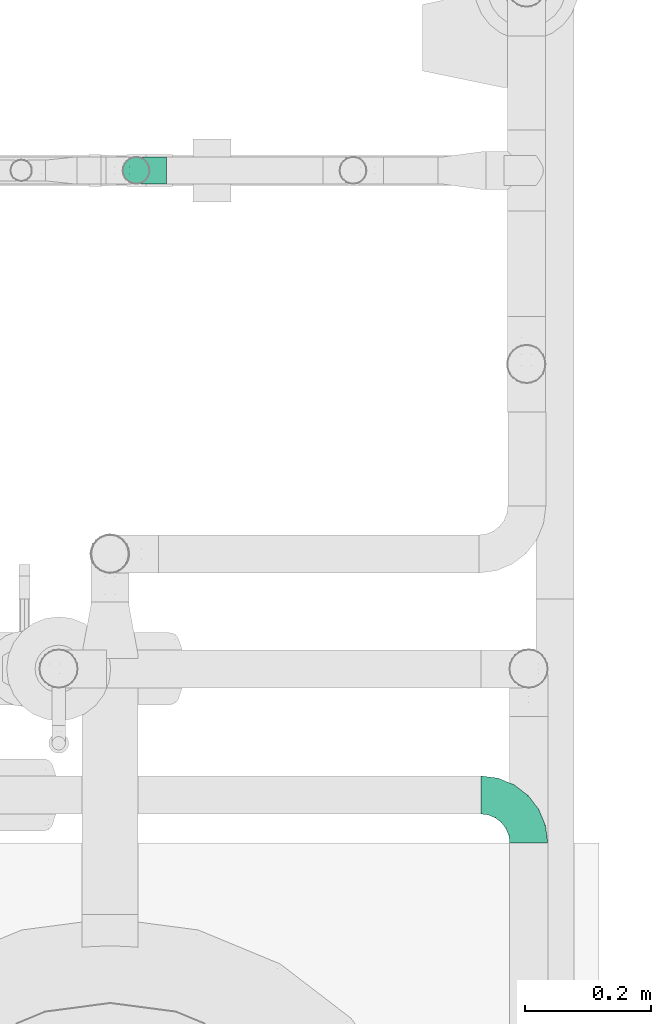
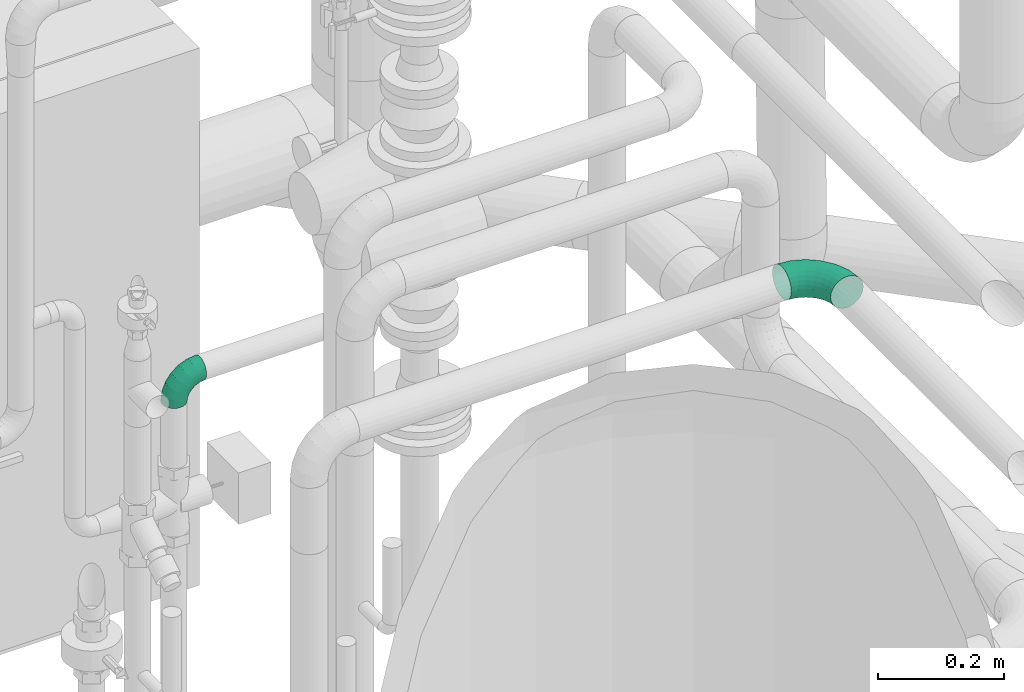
# One storey, part 114 of 374: 2 flow segments.
"""IFC2X3 building model written with IfcOpenShell, lengths in metres."""

from ifc_helpers import new_model, si_unit, direction, origin, place, context, subcontext, project, spatial, open_shell, surface_model, source, transform, mapped, element, save


model = new_model("IFC2X3")

# Units and contexts
model_context = context("Model", 3, precision=1e-05, world=origin(), true_north=direction((-0.4480736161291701, 0.8939966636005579)))
body_context = subcontext(model_context, "Body", "Model", "MODEL_VIEW")
ifc_project = project(units=[si_unit("LENGTHUNIT", "METRE"), si_unit("AREAUNIT", "SQUARE_METRE"), si_unit("VOLUMEUNIT", "CUBIC_METRE"), si_unit("PLANEANGLEUNIT", "RADIAN"), si_unit("THERMODYNAMICTEMPERATUREUNIT", "KELVIN"), si_unit("MASSUNIT", "GRAM", prefix="KILO"), si_unit("TIMEUNIT", "SECOND")], contexts=[model_context])

# Site, building, storey
site_placement = place(None, origin())
site = spatial("IfcSite", under=ifc_project, at=site_placement, Name="Site 1", CompositionType="ELEMENT")
building_placement = place(site_placement, origin())
building = spatial("IfcBuilding", under=site, at=building_placement, Name="Undefined", CompositionType="ELEMENT")
storey_placement = place(building_placement, origin())
storey = spatial("IfcBuildingStorey", under=building, at=storey_placement, Name="Rez de chauss\x8ee", CompositionType="ELEMENT", Elevation=0.0)

# Flow segments
shared_shape_1 = source(origin(), body_context, "Body", "SurfaceModel", [
    surface_model("IfcFaceBasedSurfaceModel", [(0.027710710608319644, 4.4408921e-16, 0.0), (0.02757661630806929, 0.00786958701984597, 7.105427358e-15), (0.00013409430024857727, 0.00786958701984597, 0.0), (0.0, 0.0, 0.0), (-0.02637334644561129, 0.008788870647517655, -0.0070429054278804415), (-0.026766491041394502, 0.0009282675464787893, -0.007111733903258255), (-0.050139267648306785, 0.010564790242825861, -0.02064875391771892), (-0.050764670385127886, 0.0027215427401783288, -0.02085054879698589), (-0.06954406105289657, 0.013076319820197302, -0.03989032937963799), (-0.07035910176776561, 0.00525761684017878, -0.04028016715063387), (-0.0832653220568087, 0.01615230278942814, -0.06345635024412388), (-0.08421445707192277, 0.00836366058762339, -0.06407649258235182), (-0.09036796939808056, 0.019583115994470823, -0.08974083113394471), (-0.0913865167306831, 0.011828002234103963, -0.09061784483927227), (0.027183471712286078, 0.015466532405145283, -0.0020199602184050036), (0.0005272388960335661, 0.015466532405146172, -0.0020199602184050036), (-0.025220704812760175, 0.016359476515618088, -0.008861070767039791), (-0.048305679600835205, 0.018084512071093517, -0.02207708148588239), (-0.06715448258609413, 0.020524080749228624, -0.04076734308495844), (-0.0804825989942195, 0.023511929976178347, -0.06365814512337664), (-0.08738173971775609, 0.026844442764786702, -0.08918951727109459), (0.026558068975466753, 0.022273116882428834, -0.005922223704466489), (0.001152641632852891, 0.02227311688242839, -0.005922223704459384), (-0.02338711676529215, 0.023124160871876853, -0.012442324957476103), (-0.04538886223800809, 0.02476825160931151, -0.02503819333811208), (-0.06335321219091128, 0.027093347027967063, -0.042851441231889), (-0.07605592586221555, 0.029940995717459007, -0.06466812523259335), (-0.08263133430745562, 0.033117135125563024, -0.08900147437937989), (0.025743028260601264, 0.0278254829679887, -0.011440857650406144), (0.0019676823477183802, 0.027825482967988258, -0.011440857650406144), (-0.020997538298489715, 0.028621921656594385, -0.017542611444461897), (-0.04158759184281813, 0.03016052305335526, -0.029330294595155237), (-0.058399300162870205, 0.0323364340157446, -0.04600059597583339), (-0.07028697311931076, 0.03500136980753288, -0.06641746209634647), (-0.07644048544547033, 0.0379737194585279, -0.08918951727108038), (0.02479389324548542, 0.03174524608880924, -0.01819977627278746), (0.0029168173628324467, 0.03174524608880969, -0.01819977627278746), (-0.018214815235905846, 0.0324780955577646, -0.023814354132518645), (-0.03716091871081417, 0.033893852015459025, -0.034660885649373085), (-0.052630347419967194, 0.03589603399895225, -0.05000019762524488), (-0.06356888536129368, 0.03834819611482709, -0.06878694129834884), (-0.06923108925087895, 0.041083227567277, -0.0897408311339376), (0.023775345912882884, 0.03376528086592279, -0.02573837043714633), (0.003935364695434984, 0.03376528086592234, -0.02573837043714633), (-0.01522858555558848, 0.03442989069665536, -0.03083014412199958), (-0.0324105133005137, 0.03571381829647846, -0.040666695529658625), (-0.046439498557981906, 0.0375295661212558, -0.05457767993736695), (-0.05635948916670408, 0.039753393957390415, -0.07161508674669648), (-0.061494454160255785, 0.04223375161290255, -0.09061784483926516), (0.022756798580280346, 0.03374792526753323, -0.033542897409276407), (0.0049539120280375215, 0.033747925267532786, -0.033542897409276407), (-0.01224235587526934, 0.03434429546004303, -0.03811186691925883), (-0.027660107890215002, 0.035496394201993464, -0.04693843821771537), (-0.040248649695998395, 0.0371257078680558, -0.05942109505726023), (-0.04915009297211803, 0.039121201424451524, -0.07470916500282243), (-0.05375781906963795, 0.041346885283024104, -0.09176079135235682), (0.02180766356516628, 0.03169436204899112, -0.04108149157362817), (0.005903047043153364, 0.031694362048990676, -0.04108149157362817), (-0.00945963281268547, 0.03222714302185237, -0.045163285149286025), (-0.02323343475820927, 0.03325639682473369, -0.05304870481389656), (-0.034479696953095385, 0.034711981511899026, -0.06420037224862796), (-0.04243200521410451, 0.036494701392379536, -0.07785831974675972), (-0.04654842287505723, 0.03848306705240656, -0.09309178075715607), (0.020992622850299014, 0.02774453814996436, -0.0478404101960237), (0.006718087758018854, 0.027744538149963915, -0.0478404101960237), (-0.007070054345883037, 0.02822271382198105, -0.05150385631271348), (-0.019432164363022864, 0.0291464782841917, -0.0585810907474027), (-0.029525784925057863, 0.030452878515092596, -0.06858981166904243), (-0.03666305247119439, 0.032052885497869, -0.08084794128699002), (-0.04035757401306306, 0.03383746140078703, -0.09452010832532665), (0.020367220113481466, 0.022167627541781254, -0.05335904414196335), (0.0073434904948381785, 0.022167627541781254, -0.05335904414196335), (-0.00523646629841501, 0.02260390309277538, -0.05670148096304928), (-0.016515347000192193, 0.023446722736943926, -0.06315857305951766), (-0.025724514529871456, 0.02463864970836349, -0.07229028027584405), (-0.03223637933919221, 0.02609845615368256, -0.0834742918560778), (-0.03560716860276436, 0.027726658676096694, -0.09594843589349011), (0.019974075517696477, 0.01534368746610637, -0.05726130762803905), (0.007736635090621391, 0.01534368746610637, -0.05726130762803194), (-0.004083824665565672, 0.01575362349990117, -0.06040194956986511), (-0.014681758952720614, 0.01654555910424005, -0.06646920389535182), (-0.02333493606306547, 0.01766552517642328, -0.07504959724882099), (-0.029453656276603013, 0.01903719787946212, -0.08555839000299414), (-0.032620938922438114, 0.02056709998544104, -0.09727942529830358), (0.019839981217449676, 0.00773775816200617, -0.05928126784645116), (0.007870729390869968, 0.007737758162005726, -0.05928126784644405), (-0.003690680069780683, 0.008138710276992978, -0.062353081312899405), (-0.014056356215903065, 0.008913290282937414, -0.06828736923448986), (-0.022519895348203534, 0.01000871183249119, -0.07667971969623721), (-0.0285045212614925, 0.011350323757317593, -0.08695820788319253), (-0.03160239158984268, 0.012846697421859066, -0.09842237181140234), (0.019974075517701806, -0.0001318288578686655, -0.05928126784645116), (0.007736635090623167, -0.0001318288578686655, -0.059281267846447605), (-0.004083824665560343, 0.0002781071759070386, -0.062421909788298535), (-0.014681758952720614, 0.001070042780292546, -0.06848916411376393), (-0.02333493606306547, 0.0021900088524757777, -0.0770695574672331), (-0.029453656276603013, 0.0035616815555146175, -0.08757835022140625), (-0.032620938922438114, 0.005091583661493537, -0.09929938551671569), (0.020367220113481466, -0.007728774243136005, -0.057261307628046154), (0.0073434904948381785, -0.007728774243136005, -0.057261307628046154), (-0.00523646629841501, -0.00729249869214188, -0.06060374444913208), (-0.016515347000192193, -0.0064496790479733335, -0.06706083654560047), (-0.025724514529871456, -0.005257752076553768, -0.07619254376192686), (-0.03223637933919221, -0.0037979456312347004, -0.0873765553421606), (-0.03560716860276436, -0.0021697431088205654, -0.09985069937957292), (0.020992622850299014, -0.01453535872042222, -0.053359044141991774), (0.006718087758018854, -0.014535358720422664, -0.053359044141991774), (-0.007070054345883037, -0.01405718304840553, -0.05702249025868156), (-0.019432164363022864, -0.013133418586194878, -0.06409972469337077), (-0.029525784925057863, -0.011827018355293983, -0.07410844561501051), (-0.03666305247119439, -0.01022701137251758, -0.0863665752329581), (-0.04035757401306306, -0.008442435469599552, -0.10003874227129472), (0.02180766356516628, -0.020087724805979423, -0.04784041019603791), (0.005903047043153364, -0.020087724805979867, -0.04784041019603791), (-0.00945963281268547, -0.019554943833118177, -0.05192220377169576), (-0.02323343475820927, -0.018525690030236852, -0.0598076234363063), (-0.034479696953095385, -0.017070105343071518, -0.0709592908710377), (-0.04243200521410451, -0.015287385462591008, -0.08461723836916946), (-0.04654842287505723, -0.013299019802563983, -0.09985069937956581), (0.022756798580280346, -0.024007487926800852, -0.0410814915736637), (0.0049539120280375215, -0.024007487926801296, -0.0410814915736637), (-0.01224235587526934, -0.023411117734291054, -0.04565046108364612), (-0.027660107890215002, -0.022259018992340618, -0.054477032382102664), (-0.040248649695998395, -0.02062970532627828, -0.06695968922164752), (-0.04915009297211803, -0.018634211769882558, -0.08224775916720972), (-0.05375781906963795, -0.016408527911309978, -0.09929938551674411), (0.023775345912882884, -0.026027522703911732, -0.033542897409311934), (0.003935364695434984, -0.026027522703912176, -0.033542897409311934), (-0.01522858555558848, -0.025362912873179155, -0.038634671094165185), (-0.0324105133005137, -0.024078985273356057, -0.04847122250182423), (-0.046439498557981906, -0.02226323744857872, -0.062382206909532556), (-0.05635948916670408, -0.020039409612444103, -0.07941961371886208), (-0.061494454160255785, -0.01755905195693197, -0.09842237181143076), (0.02479389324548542, -0.02601016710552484, -0.02573837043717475), (0.0029168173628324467, -0.026010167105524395, -0.02573837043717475), (-0.018214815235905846, -0.025277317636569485, -0.031352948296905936), (-0.03716091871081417, -0.023861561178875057, -0.04219947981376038), (-0.052630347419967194, -0.021859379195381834, -0.05753879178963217), (-0.06356888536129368, -0.01940721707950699, -0.07632553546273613), (-0.06923108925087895, -0.01667218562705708, -0.0972794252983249), (0.025743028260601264, -0.023956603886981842, -0.018199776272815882), (0.0019676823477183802, -0.023956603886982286, -0.018199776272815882), (-0.020997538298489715, -0.02316016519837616, -0.024301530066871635), (-0.04158759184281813, -0.021621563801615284, -0.036089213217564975), (-0.058399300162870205, -0.019445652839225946, -0.05275951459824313), (-0.07028697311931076, -0.016780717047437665, -0.0731763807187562), (-0.07644048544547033, -0.013808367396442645, -0.09594843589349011), (0.026558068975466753, -0.020006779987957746, -0.011440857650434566), (0.001152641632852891, -0.02000677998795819, -0.01144085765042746), (-0.02338711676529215, -0.019155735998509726, -0.01796095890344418), (-0.04538886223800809, -0.01751164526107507, -0.030556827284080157), (-0.06335321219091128, -0.015186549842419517, -0.048370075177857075), (-0.07605592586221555, -0.012338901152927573, -0.07018675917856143), (-0.08263133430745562, -0.009162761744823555, -0.09452010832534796), (0.027183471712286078, -0.014429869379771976, -0.005922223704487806), (0.0005272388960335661, -0.014429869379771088, -0.005922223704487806), (-0.025220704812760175, -0.013536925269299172, -0.012763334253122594), (-0.048305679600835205, -0.011811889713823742, -0.02597934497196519), (-0.06715448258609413, -0.009372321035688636, -0.04466960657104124), (-0.0804825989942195, -0.006384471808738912, -0.06756040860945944), (-0.08738173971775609, -0.003051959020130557, -0.09309178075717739), (0.02757661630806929, -0.007605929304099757, -0.0020199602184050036), (0.00013409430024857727, -0.007605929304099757, -0.002019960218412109), (-0.02637334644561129, -0.006686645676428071, -0.00906286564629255), (-0.050139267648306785, -0.004910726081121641, -0.02266871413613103), (-0.06954406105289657, -0.0023991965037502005, -0.0419102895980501), (-0.0832653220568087, 0.0006767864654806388, -0.06547631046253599), (-0.09036796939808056, 0.004107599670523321, -0.09176079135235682)], [open_shell([[[0, 1, 2, 3]], [[3, 2, 4, 5]], [[5, 4, 6, 7]], [[7, 6, 8, 9]], [[9, 8, 10, 11]], [[11, 10, 12, 13]], [[1, 14, 15, 2]], [[2, 15, 16, 4]], [[4, 16, 17, 6]], [[6, 17, 18, 8]], [[8, 18, 19, 10]], [[10, 19, 20, 12]], [[14, 21, 22, 15]], [[15, 22, 23, 16]], [[16, 23, 24, 17]], [[17, 24, 25, 18]], [[18, 25, 26, 19]], [[19, 26, 27, 20]], [[21, 28, 29, 22]], [[22, 29, 30, 23]], [[23, 30, 31, 24]], [[24, 31, 32, 25]], [[25, 32, 33, 26]], [[26, 33, 34, 27]], [[28, 35, 36, 29]], [[29, 36, 37, 30]], [[30, 37, 38, 31]], [[31, 38, 39, 32]], [[32, 39, 40, 33]], [[33, 40, 41, 34]], [[35, 42, 43, 36]], [[36, 43, 44, 37]], [[37, 44, 45, 38]], [[38, 45, 46, 39]], [[39, 46, 47, 40]], [[40, 47, 48, 41]], [[42, 49, 50, 43]], [[43, 50, 51, 44]], [[44, 51, 52, 45]], [[45, 52, 53, 46]], [[46, 53, 54, 47]], [[47, 54, 55, 48]], [[49, 56, 57, 50]], [[50, 57, 58, 51]], [[51, 58, 59, 52]], [[52, 59, 60, 53]], [[53, 60, 61, 54]], [[54, 61, 62, 55]], [[56, 63, 64, 57]], [[57, 64, 65, 58]], [[58, 65, 66, 59]], [[59, 66, 67, 60]], [[60, 67, 68, 61]], [[61, 68, 69, 62]], [[63, 70, 71, 64]], [[64, 71, 72, 65]], [[65, 72, 73, 66]], [[66, 73, 74, 67]], [[67, 74, 75, 68]], [[68, 75, 76, 69]], [[70, 77, 78, 71]], [[71, 78, 79, 72]], [[72, 79, 80, 73]], [[73, 80, 81, 74]], [[74, 81, 82, 75]], [[75, 82, 83, 76]], [[77, 84, 85, 78]], [[78, 85, 86, 79]], [[79, 86, 87, 80]], [[80, 87, 88, 81]], [[81, 88, 89, 82]], [[82, 89, 90, 83]], [[84, 91, 92, 85]], [[85, 92, 93, 86]], [[86, 93, 94, 87]], [[87, 94, 95, 88]], [[88, 95, 96, 89]], [[89, 96, 97, 90]], [[91, 98, 99, 92]], [[92, 99, 100, 93]], [[93, 100, 101, 94]], [[94, 101, 102, 95]], [[95, 102, 103, 96]], [[96, 103, 104, 97]], [[98, 105, 106, 99]], [[99, 106, 107, 100]], [[100, 107, 108, 101]], [[101, 108, 109, 102]], [[102, 109, 110, 103]], [[103, 110, 111, 104]], [[105, 112, 113, 106]], [[106, 113, 114, 107]], [[107, 114, 115, 108]], [[108, 115, 116, 109]], [[109, 116, 117, 110]], [[110, 117, 118, 111]], [[112, 119, 120, 113]], [[113, 120, 121, 114]], [[114, 121, 122, 115]], [[115, 122, 123, 116]], [[116, 123, 124, 117]], [[117, 124, 125, 118]], [[119, 126, 127, 120]], [[120, 127, 128, 121]], [[121, 128, 129, 122]], [[122, 129, 130, 123]], [[123, 130, 131, 124]], [[124, 131, 132, 125]], [[126, 133, 134, 127]], [[127, 134, 135, 128]], [[128, 135, 136, 129]], [[129, 136, 137, 130]], [[130, 137, 138, 131]], [[131, 138, 139, 132]], [[133, 140, 141, 134]], [[134, 141, 142, 135]], [[135, 142, 143, 136]], [[136, 143, 144, 137]], [[137, 144, 145, 138]], [[138, 145, 146, 139]], [[140, 147, 148, 141]], [[141, 148, 149, 142]], [[142, 149, 150, 143]], [[143, 150, 151, 144]], [[144, 151, 152, 145]], [[145, 152, 153, 146]], [[147, 154, 155, 148]], [[148, 155, 156, 149]], [[149, 156, 157, 150]], [[150, 157, 158, 151]], [[151, 158, 159, 152]], [[152, 159, 160, 153]], [[154, 161, 162, 155]], [[155, 162, 163, 156]], [[156, 163, 164, 157]], [[157, 164, 165, 158]], [[158, 165, 166, 159]], [[159, 166, 167, 160]], [[161, 0, 3, 162]], [[162, 3, 5, 163]], [[163, 5, 7, 164]], [[164, 7, 9, 165]], [[165, 9, 11, 166]], [[166, 11, 13, 167]]])]),
])
flow_segment_1_placement = place(storey_placement, origin())
element("IfcFlowSegment", 1, at=flow_segment_1_placement, inside=storey, Name="Tube coudé", ObjectType="Tube coudé", context=body_context, shape_type="MappedRepresentation", body=[
    mapped(shared_shape_1, transform((54.95430420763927, 10.744570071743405, 1.9652586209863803), x_axis=(-0.9914448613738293, 0.13052619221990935, 0.0), y_axis=(-0.016893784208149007, -0.12832103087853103, 0.9915887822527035), z_axis=(0.12942830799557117, 0.9831056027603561, 0.12942830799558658))),
])
shared_shape_2 = source(origin(), body_context, "Body", "SurfaceModel", [
    surface_model("IfcFaceBasedSurfaceModel", [(0.01806482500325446, 7.105427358e-15, 0.0), (0.017970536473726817, 0.005533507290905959, 0.0), (9.428852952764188e-05, 0.005533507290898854, 0.0), (0.0, 0.0, 0.0), (-0.017172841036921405, 0.00613233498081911, -0.004587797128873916), (-0.01744928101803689, 0.0006051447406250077, -0.004636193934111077), (-0.03265412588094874, 0.007289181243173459, -0.013450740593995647), (-0.0330938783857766, 0.0017741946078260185, -0.013592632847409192), (-0.045294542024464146, 0.008925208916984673, -0.02598483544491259), (-0.045867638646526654, 0.0034274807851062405, -0.02625895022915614), (-0.054232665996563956, 0.010928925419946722, -0.041335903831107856), (-0.05490005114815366, 0.005452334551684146, -0.04177195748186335), (-0.05885937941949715, 0.013163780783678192, -0.05845779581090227), (-0.059575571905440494, 0.007710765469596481, -0.05907446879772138), (0.01769409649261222, 0.010875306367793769, -0.0014203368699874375), (0.00037072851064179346, 0.010875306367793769, -0.0014203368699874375), (-0.016362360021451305, 0.011455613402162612, -0.005866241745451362), (-0.03136483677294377, 0.012576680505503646, -0.014455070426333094), (-0.04361430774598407, 0.014162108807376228, -0.026601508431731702), (-0.05227599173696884, 0.016103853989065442, -0.0414777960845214), (-0.05675960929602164, 0.018269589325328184, -0.05807013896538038), (0.017254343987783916, 0.015661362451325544, -0.0041642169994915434), (0.0008104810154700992, 0.015661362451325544, -0.004164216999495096), (-0.01507307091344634, 0.016212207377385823, -0.008384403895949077), (-0.029313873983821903, 0.01727635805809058, -0.016537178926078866), (-0.04094144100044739, 0.01878129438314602, -0.02806694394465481), (-0.049163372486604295, 0.02062445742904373, -0.042187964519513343), (-0.05341935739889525, 0.02268023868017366, -0.05793791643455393), (0.016681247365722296, 0.01956551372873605, -0.008044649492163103), (0.001383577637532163, 0.01956551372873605, -0.008044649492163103), (-0.01339283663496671, 0.020077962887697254, -0.011970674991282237), (-0.026641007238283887, 0.021067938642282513, -0.01955517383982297), (-0.03745809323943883, 0.02246797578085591, -0.03028127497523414), (-0.04510692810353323, 0.0241826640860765, -0.04341801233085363), (-0.04906625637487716, 0.026095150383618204, -0.05807013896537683), (0.016013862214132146, 0.022321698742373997, -0.012797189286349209), (0.0020509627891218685, 0.022321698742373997, -0.012797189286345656), (-0.011436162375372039, 0.02278943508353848, -0.016380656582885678), (-0.023528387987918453, 0.02369303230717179, -0.023303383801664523), (-0.03340164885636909, 0.024970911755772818, -0.03309359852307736), (-0.040383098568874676, 0.026535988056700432, -0.04508411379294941), (-0.04399696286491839, 0.028281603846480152, -0.05845779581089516), (0.015297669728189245, 0.023742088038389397, -0.018097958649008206), (0.00276715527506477, 0.023742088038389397, -0.018097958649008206), (-0.009336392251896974, 0.024161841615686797, -0.021313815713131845), (-0.02018813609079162, 0.02497274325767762, -0.0275263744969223), (-0.029048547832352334, 0.02611953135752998, -0.03631225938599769), (-0.03531380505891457, 0.027524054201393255, -0.04707272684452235), (-0.0385569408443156, 0.02909059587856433, -0.05907446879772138), (0.014581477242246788, 0.023729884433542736, -0.02358571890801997), (0.0034833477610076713, 0.023729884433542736, -0.02358571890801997), (-0.007236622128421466, 0.024101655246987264, -0.026433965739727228), (-0.016847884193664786, 0.02481986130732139, -0.03193635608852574), (-0.02469544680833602, 0.02583555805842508, -0.03971791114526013), (-0.0302445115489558, 0.027079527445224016, -0.04924833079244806), (-0.03311691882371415, 0.02846699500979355, -0.059878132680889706), (0.013914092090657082, 0.02228591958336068, -0.02888648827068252), (0.004150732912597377, 0.022285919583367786, -0.028886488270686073), (-0.005279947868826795, 0.022612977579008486, -0.031392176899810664), (-0.013735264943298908, 0.023244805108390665, -0.03623279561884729), (-0.020639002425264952, 0.02413834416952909, -0.04307846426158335), (-0.025520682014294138, 0.025232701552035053, -0.051462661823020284), (-0.028047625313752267, 0.026453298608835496, -0.060814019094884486), (0.013340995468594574, 0.01950859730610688, -0.03363902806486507), (0.0047238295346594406, 0.01950859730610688, -0.033639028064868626), (-0.0035997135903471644, 0.019797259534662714, -0.035850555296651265), (-0.011062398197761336, 0.0203549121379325, -0.04012289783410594), (-0.017155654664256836, 0.021143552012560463, -0.04616490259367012), (-0.02146423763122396, 0.022109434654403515, -0.05356481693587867), (-0.02369452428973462, 0.023186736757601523, -0.06181834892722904), (0.012901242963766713, 0.015587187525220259, -0.037519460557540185), (0.005163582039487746, 0.015587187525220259, -0.03751946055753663), (-0.0023104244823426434, 0.015846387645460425, -0.03950526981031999), (-0.009011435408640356, 0.016347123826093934, -0.043341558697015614), (-0.01448278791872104, 0.017055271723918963, -0.048766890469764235), (-0.018351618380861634, 0.017922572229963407, -0.05541153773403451), (-0.02035427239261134, 0.018889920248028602, -0.06282267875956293), (0.012624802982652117, 0.010788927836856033, -0.040263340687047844), (0.005440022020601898, 0.010788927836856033, -0.0402633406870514), (-0.0014999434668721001, 0.011029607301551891, -0.04210725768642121), (-0.007722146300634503, 0.01149456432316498, -0.045669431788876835), (-0.012802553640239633, 0.012152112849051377, -0.05070710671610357), (-0.0163949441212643, 0.012957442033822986, -0.056876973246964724), (-0.018254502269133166, 0.013855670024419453, -0.06375856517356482), (0.012530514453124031, 0.005440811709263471, -0.041683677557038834), (0.005534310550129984, 0.0054408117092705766, -0.041683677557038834), (-0.0012235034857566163, 0.005675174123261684, -0.04347919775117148), (-0.007282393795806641, 0.006127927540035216, -0.046947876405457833), (-0.012229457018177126, 0.0067682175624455, -0.05185332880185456), (-0.015727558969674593, 0.007552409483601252, -0.05786125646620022), (-0.01753830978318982, 0.008427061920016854, -0.0645622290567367), (0.012624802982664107, -9.269558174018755e-05, -0.041683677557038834), (0.0054400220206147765, -9.26955817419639e-05, -0.04168367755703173), (-0.0014999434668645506, 0.00014798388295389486, -0.043527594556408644), (-0.007722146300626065, 0.0006129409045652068, -0.04708976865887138), (-0.012802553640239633, 0.001270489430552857, -0.05212744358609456), (-0.0163949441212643, 0.002075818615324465, -0.058297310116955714), (-0.018254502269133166, 0.0029740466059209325, -0.06517890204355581), (0.012901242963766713, -0.005434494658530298, -0.0402633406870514), (0.005163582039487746, -0.005434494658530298, -0.040263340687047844), (-0.0023104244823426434, -0.005175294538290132, -0.0422491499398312), (-0.009011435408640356, -0.004674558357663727, -0.046085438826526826), (-0.01448278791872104, -0.0039664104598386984, -0.051510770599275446), (-0.018351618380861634, -0.0030991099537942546, -0.05815541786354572), (-0.02035427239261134, -0.0021317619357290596, -0.06556655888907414), (0.013340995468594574, -0.010220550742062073, -0.03751946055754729), (0.0047238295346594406, -0.010220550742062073, -0.03751946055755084), (-0.0035997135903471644, -0.009931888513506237, -0.03973098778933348), (-0.011062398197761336, -0.009374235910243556, -0.04400333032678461), (-0.017155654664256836, -0.00858559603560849, -0.05004533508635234), (-0.02146423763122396, -0.007619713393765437, -0.057445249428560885), (-0.02369452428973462, -0.006542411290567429, -0.06569878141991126), (0.013914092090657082, -0.01412470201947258, -0.03363902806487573), (0.004150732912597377, -0.014124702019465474, -0.033639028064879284), (-0.005279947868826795, -0.013797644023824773, -0.036144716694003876), (-0.013735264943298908, -0.013165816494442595, -0.0409853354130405), (-0.020639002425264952, -0.012272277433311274, -0.04783100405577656), (-0.025520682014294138, -0.011177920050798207, -0.05621520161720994), (-0.028047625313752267, -0.009957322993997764, -0.0655665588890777), (0.014581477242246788, -0.01688088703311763, -0.028886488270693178), (0.0034833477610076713, -0.01688088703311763, -0.028886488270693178), (-0.007236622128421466, -0.016509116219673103, -0.031734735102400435), (-0.016847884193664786, -0.015790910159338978, -0.03723712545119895), (-0.02469544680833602, -0.014775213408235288, -0.04501868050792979), (-0.0302445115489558, -0.01353124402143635, -0.054549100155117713), (-0.03311691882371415, -0.012143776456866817, -0.06517890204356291), (0.015297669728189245, -0.01830127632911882, -0.02358571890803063), (0.00276715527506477, -0.01830127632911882, -0.02358571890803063), (-0.009336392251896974, -0.01788152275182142, -0.026801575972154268), (-0.02018813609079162, -0.017070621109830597, -0.033014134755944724), (-0.029048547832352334, -0.01592383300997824, -0.04180001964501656), (-0.03531380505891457, -0.014519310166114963, -0.05256048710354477), (-0.0385569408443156, -0.012952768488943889, -0.06456222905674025), (0.016013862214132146, -0.01828907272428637, -0.018097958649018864), (0.0020509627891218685, -0.01828907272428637, -0.018097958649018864), (-0.011436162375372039, -0.01782133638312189, -0.021681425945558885), (-0.023528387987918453, -0.016917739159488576, -0.02860415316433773), (-0.03340164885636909, -0.01563985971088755, -0.038394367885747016), (-0.040383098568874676, -0.014074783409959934, -0.05038488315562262), (-0.04399696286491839, -0.012329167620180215, -0.06375856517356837), (0.016681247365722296, -0.01684510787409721, -0.012797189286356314), (0.001383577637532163, -0.01684510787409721, -0.012797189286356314), (-0.01339283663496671, -0.016332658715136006, -0.01672321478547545), (-0.026641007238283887, -0.015342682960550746, -0.02430771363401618), (-0.03745809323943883, -0.01394264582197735, -0.03503381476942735), (-0.04510692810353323, -0.01222795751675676, -0.04817055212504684), (-0.04906625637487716, -0.010315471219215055, -0.06282267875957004), (0.017254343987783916, -0.014067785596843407, -0.008044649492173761), (0.0008104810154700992, -0.014067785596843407, -0.008044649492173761), (-0.01507307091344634, -0.013516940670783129, -0.012264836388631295), (-0.029313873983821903, -0.012452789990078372, -0.020417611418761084), (-0.04094144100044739, -0.010947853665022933, -0.03194737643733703), (-0.049163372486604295, -0.009104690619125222, -0.04606839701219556), (-0.05341935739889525, -0.007048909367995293, -0.06181834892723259), (0.01769409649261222, -0.010146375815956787, -0.004164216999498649), (0.00037072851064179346, -0.010146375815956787, -0.004164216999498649), (-0.016362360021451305, -0.009566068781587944, -0.008610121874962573), (-0.03136483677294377, -0.008445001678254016, -0.017198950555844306), (-0.04361430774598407, -0.006859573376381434, -0.029345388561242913), (-0.05227599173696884, -0.00491782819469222, -0.04422167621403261), (-0.05675960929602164, -0.002752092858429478, -0.060814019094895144), (0.017970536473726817, -0.0053481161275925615, -0.0014203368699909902), (9.428852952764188e-05, -0.005348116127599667, -0.001420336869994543), (-0.017172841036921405, -0.004749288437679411, -0.006008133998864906), (-0.03265412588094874, -0.0035924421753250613, -0.014871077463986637), (-0.045294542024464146, -0.001956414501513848, -0.02740517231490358), (-0.05423266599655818, 4.730200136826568e-05, -0.042756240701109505), (-0.05885937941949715, 0.002282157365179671, -0.05987813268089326)], [open_shell([[[0, 1, 2, 3]], [[3, 2, 4, 5]], [[5, 4, 6, 7]], [[7, 6, 8, 9]], [[9, 8, 10, 11]], [[11, 10, 12, 13]], [[1, 14, 15, 2]], [[2, 15, 16, 4]], [[4, 16, 17, 6]], [[6, 17, 18, 8]], [[8, 18, 19, 10]], [[10, 19, 20, 12]], [[14, 21, 22, 15]], [[15, 22, 23, 16]], [[16, 23, 24, 17]], [[17, 24, 25, 18]], [[18, 25, 26, 19]], [[19, 26, 27, 20]], [[21, 28, 29, 22]], [[22, 29, 30, 23]], [[23, 30, 31, 24]], [[24, 31, 32, 25]], [[25, 32, 33, 26]], [[26, 33, 34, 27]], [[28, 35, 36, 29]], [[29, 36, 37, 30]], [[30, 37, 38, 31]], [[31, 38, 39, 32]], [[32, 39, 40, 33]], [[33, 40, 41, 34]], [[35, 42, 43, 36]], [[36, 43, 44, 37]], [[37, 44, 45, 38]], [[38, 45, 46, 39]], [[39, 46, 47, 40]], [[40, 47, 48, 41]], [[42, 49, 50, 43]], [[43, 50, 51, 44]], [[44, 51, 52, 45]], [[45, 52, 53, 46]], [[46, 53, 54, 47]], [[47, 54, 55, 48]], [[49, 56, 57, 50]], [[50, 57, 58, 51]], [[51, 58, 59, 52]], [[52, 59, 60, 53]], [[53, 60, 61, 54]], [[54, 61, 62, 55]], [[56, 63, 64, 57]], [[57, 64, 65, 58]], [[58, 65, 66, 59]], [[59, 66, 67, 60]], [[60, 67, 68, 61]], [[61, 68, 69, 62]], [[63, 70, 71, 64]], [[64, 71, 72, 65]], [[65, 72, 73, 66]], [[66, 73, 74, 67]], [[67, 74, 75, 68]], [[68, 75, 76, 69]], [[70, 77, 78, 71]], [[71, 78, 79, 72]], [[72, 79, 80, 73]], [[73, 80, 81, 74]], [[74, 81, 82, 75]], [[75, 82, 83, 76]], [[77, 84, 85, 78]], [[78, 85, 86, 79]], [[79, 86, 87, 80]], [[80, 87, 88, 81]], [[81, 88, 89, 82]], [[82, 89, 90, 83]], [[84, 91, 92, 85]], [[85, 92, 93, 86]], [[86, 93, 94, 87]], [[87, 94, 95, 88]], [[88, 95, 96, 89]], [[89, 96, 97, 90]], [[91, 98, 99, 92]], [[92, 99, 100, 93]], [[93, 100, 101, 94]], [[94, 101, 102, 95]], [[95, 102, 103, 96]], [[96, 103, 104, 97]], [[98, 105, 106, 99]], [[99, 106, 107, 100]], [[100, 107, 108, 101]], [[101, 108, 109, 102]], [[102, 109, 110, 103]], [[103, 110, 111, 104]], [[105, 112, 113, 106]], [[106, 113, 114, 107]], [[107, 114, 115, 108]], [[108, 115, 116, 109]], [[109, 116, 117, 110]], [[110, 117, 118, 111]], [[112, 119, 120, 113]], [[113, 120, 121, 114]], [[114, 121, 122, 115]], [[115, 122, 123, 116]], [[116, 123, 124, 117]], [[117, 124, 125, 118]], [[119, 126, 127, 120]], [[120, 127, 128, 121]], [[121, 128, 129, 122]], [[122, 129, 130, 123]], [[123, 130, 131, 124]], [[124, 131, 132, 125]], [[126, 133, 134, 127]], [[127, 134, 135, 128]], [[128, 135, 136, 129]], [[129, 136, 137, 130]], [[130, 137, 138, 131]], [[131, 138, 139, 132]], [[133, 140, 141, 134]], [[134, 141, 142, 135]], [[135, 142, 143, 136]], [[136, 143, 144, 137]], [[137, 144, 145, 138]], [[138, 145, 146, 139]], [[140, 147, 148, 141]], [[141, 148, 149, 142]], [[142, 149, 150, 143]], [[143, 150, 151, 144]], [[144, 151, 152, 145]], [[145, 152, 153, 146]], [[147, 154, 155, 148]], [[148, 155, 156, 149]], [[149, 156, 157, 150]], [[150, 157, 158, 151]], [[151, 158, 159, 152]], [[152, 159, 160, 153]], [[154, 161, 162, 155]], [[155, 162, 163, 156]], [[156, 163, 164, 157]], [[157, 164, 165, 158]], [[158, 165, 166, 159]], [[159, 166, 167, 160]], [[161, 0, 3, 162]], [[162, 3, 5, 163]], [[163, 5, 7, 164]], [[164, 7, 9, 165]], [[165, 9, 11, 166]], [[166, 11, 13, 167]]])]),
])
flow_segment_2_placement = place(storey_placement, origin())
element("IfcFlowSegment", 2, at=flow_segment_2_placement, inside=storey, Name="Tube coudé", ObjectType="Tube coudé", context=body_context, shape_type="MappedRepresentation", body=[
    mapped(shared_shape_2, transform((54.36172939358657, 11.708084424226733, 1.3429242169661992), x_axis=(-0.13052619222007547, 0.0, -0.9914448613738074), y_axis=(0.12832103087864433, -0.9915887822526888, -0.016893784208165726), z_axis=(-0.9831056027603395, -0.12942830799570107, 0.1294283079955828))),
])

save(model, "model.ifc")
